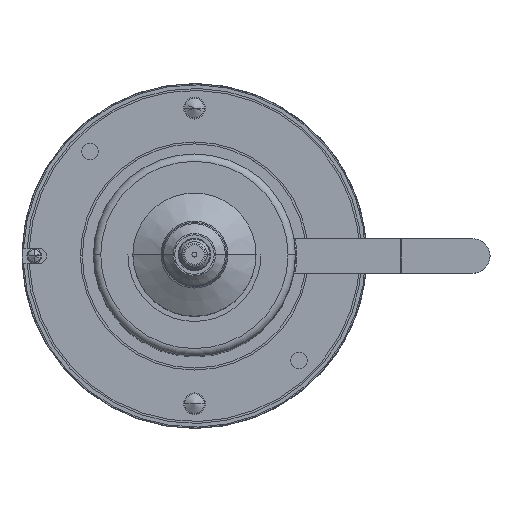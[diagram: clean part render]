
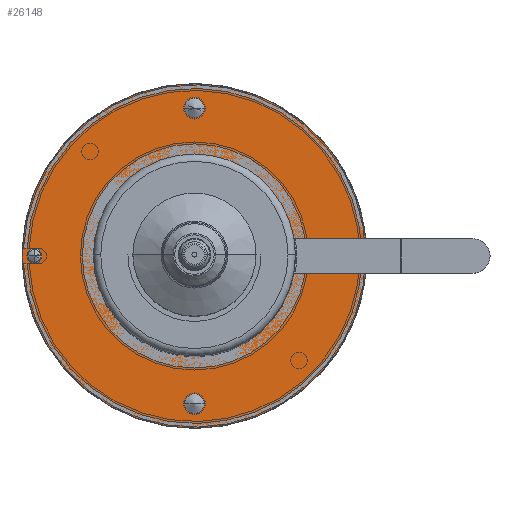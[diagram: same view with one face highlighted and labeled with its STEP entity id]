
A CAD part, top view. The second image highlights one B-rep face of the part: STEP entity #26148.
In plain terms, the highlighted planar face has unit normal (0, 0, 1).
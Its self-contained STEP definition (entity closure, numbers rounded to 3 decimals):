
#1758 = CARTESIAN_POINT ( 'NONE',  ( 40.398, -7., 32. ) ) ;
#1889 = CARTESIAN_POINT ( 'NONE',  ( -62., 0., 32. ) ) ;
#2034 = CARTESIAN_POINT ( 'NONE',  ( -41., 0., 32. ) ) ;
#2035 = CARTESIAN_POINT ( 'NONE',  ( -68., 0., 32. ) ) ;
#2039 = CARTESIAN_POINT ( 'NONE',  ( 0., -70., 32. ) ) ;
#2485 = CARTESIAN_POINT ( 'NONE',  ( 69.649, 7., 32. ) ) ;
#2546 = CARTESIAN_POINT ( 'NONE',  ( 0., 70., 32. ) ) ;
#2583 = CARTESIAN_POINT ( 'NONE',  ( 40.398, 7., 32. ) ) ;
#2746 = CARTESIAN_POINT ( 'NONE',  ( 4., -60., 32. ) ) ;
#2845 = CARTESIAN_POINT ( 'NONE',  ( -4., -60., 32. ) ) ;
#3661 = LINE ( 'NONE', #4650, #3663 ) ;
#3662 = CIRCLE ( 'NONE', #11648, 4. ) ;
#3663 = VECTOR ( 'NONE', #4651, 1000. ) ;
#3664 = CIRCLE ( 'NONE', #11649, 70. ) ;
#3665 = CIRCLE ( 'NONE', #11650, 4. ) ;
#3701 = CIRCLE ( 'NONE', #11668, 70. ) ;
#4647 = CARTESIAN_POINT ( 'NONE',  ( 0., 60., 32. ) ) ;
#4648 = DIRECTION ( 'NONE',  ( 0., 0., -1. ) ) ;
#4649 = DIRECTION ( 'NONE',  ( -1., 0., 0. ) ) ;
#4650 = CARTESIAN_POINT ( 'NONE',  ( 0., 7., 32. ) ) ;
#4651 = DIRECTION ( 'NONE',  ( -1., 0., 0. ) ) ;
#4652 = CARTESIAN_POINT ( 'NONE',  ( 0., 0., 32. ) ) ;
#4653 = DIRECTION ( 'NONE',  ( 0., 0., 1. ) ) ;
#4654 = DIRECTION ( 'NONE',  ( 0., 1., 0. ) ) ;
#4655 = CARTESIAN_POINT ( 'NONE',  ( 0., -60., 32. ) ) ;
#4656 = DIRECTION ( 'NONE',  ( 0., 0., 1. ) ) ;
#4657 = DIRECTION ( 'NONE',  ( -1., 0., 0. ) ) ;
#4773 = CARTESIAN_POINT ( 'NONE',  ( 0., 0., 32. ) ) ;
#4774 = DIRECTION ( 'NONE',  ( 0., 0., 1. ) ) ;
#4775 = DIRECTION ( 'NONE',  ( 0., 1., 0. ) ) ;
#8245 = CARTESIAN_POINT ( 'NONE',  ( 4., 60., 32. ) ) ;
#8702 = CARTESIAN_POINT ( 'NONE',  ( -4., 60., 32. ) ) ;
#8990 = CARTESIAN_POINT ( 'NONE',  ( 69.649, -7., 32. ) ) ;
#10166 = VERTEX_POINT ( 'NONE', #8245 ) ;
#10170 = VERTEX_POINT ( 'NONE', #8990 ) ;
#10190 = VERTEX_POINT ( 'NONE', #8702 ) ;
#10208 = VERTEX_POINT ( 'NONE', #2039 ) ;
#10209 = VERTEX_POINT ( 'NONE', #1889 ) ;
#10233 = VERTEX_POINT ( 'NONE', #2845 ) ;
#10266 = VERTEX_POINT ( 'NONE', #2485 ) ;
#10281 = VERTEX_POINT ( 'NONE', #2034 ) ;
#10291 = VERTEX_POINT ( 'NONE', #2546 ) ;
#10293 = VERTEX_POINT ( 'NONE', #2035 ) ;
#10335 = VERTEX_POINT ( 'NONE', #2583 ) ;
#10375 = VERTEX_POINT ( 'NONE', #2746 ) ;
#10674 = AXIS2_PLACEMENT_3D ( 'NONE', #30529, #30530, #30531 ) ;
#10717 = VERTEX_POINT ( 'NONE', #1758 ) ;
#10771 = AXIS2_PLACEMENT_3D ( 'NONE', #30425, #30426, #30427 ) ;
#10815 = AXIS2_PLACEMENT_3D ( 'NONE', #30345, #30346, #30347 ) ;
#10852 = AXIS2_PLACEMENT_3D ( 'NONE', #30292, #30293, #30294 ) ;
#11209 = AXIS2_PLACEMENT_3D ( 'NONE', #30216, #30217, #30218 ) ;
#11244 = AXIS2_PLACEMENT_3D ( 'NONE', #30116, #30117, #30118 ) ;
#11301 = AXIS2_PLACEMENT_3D ( 'NONE', #29950, #29951, #29952 ) ;
#11648 = AXIS2_PLACEMENT_3D ( 'NONE', #4647, #4648, #4649 ) ;
#11649 = AXIS2_PLACEMENT_3D ( 'NONE', #4652, #4653, #4654 ) ;
#11650 = AXIS2_PLACEMENT_3D ( 'NONE', #4655, #4656, #4657 ) ;
#11668 = AXIS2_PLACEMENT_3D ( 'NONE', #4773, #4774, #4775 ) ;
#12889 = EDGE_LOOP ( 'NONE', ( #20385, #20387 ) ) ;
#13048 = EDGE_LOOP ( 'NONE', ( #20370, #20371, #20372, #20373, #20375, #20377, #20379 ) ) ;
#13429 = EDGE_LOOP ( 'NONE', ( #20368, #20369 ) ) ;
#13765 = EDGE_LOOP ( 'NONE', ( #20381, #20383 ) ) ;
#17252 = PLANE ( 'NONE',  #28843 ) ;
#17253 = CARTESIAN_POINT ( 'NONE',  ( 0., 25., 32. ) ) ;
#17254 = DIRECTION ( 'NONE',  ( 0., 0., 1. ) ) ;
#17255 = DIRECTION ( 'NONE',  ( 0., 1., 0. ) ) ;
#19348 = EDGE_CURVE ( 'NONE', #10717, #10281, #24461, .T. ) ;
#19428 = EDGE_CURVE ( 'NONE', #10209, #10293, #24520, .T. ) ;
#19529 = EDGE_CURVE ( 'NONE', #10190, #10166, #24554, .T. ) ;
#19562 = EDGE_CURVE ( 'NONE', #10717, #10170, #24583, .T. ) ;
#19569 = EDGE_CURVE ( 'NONE', #10281, #10335, #24591, .T. ) ;
#19595 = EDGE_CURVE ( 'NONE', #10291, #10208, #24618, .T. ) ;
#19629 = EDGE_CURVE ( 'NONE', #10293, #10209, #24661, .T. ) ;
#19683 = EDGE_CURVE ( 'NONE', #10375, #10233, #24705, .T. ) ;
#20368 = ORIENTED_EDGE ( 'NONE', *, *, #19529, .T. ) ;
#20369 = ORIENTED_EDGE ( 'NONE', *, *, #32314, .T. ) ;
#20370 = ORIENTED_EDGE ( 'NONE', *, *, #32315, .F. ) ;
#20371 = ORIENTED_EDGE ( 'NONE', *, *, #32347, .T. ) ;
#20372 = ORIENTED_EDGE ( 'NONE', *, *, #19595, .T. ) ;
#20373 = ORIENTED_EDGE ( 'NONE', *, *, #32316, .T. ) ;
#20375 = ORIENTED_EDGE ( 'NONE', *, *, #19562, .F. ) ;
#20377 = ORIENTED_EDGE ( 'NONE', *, *, #19348, .T. ) ;
#20379 = ORIENTED_EDGE ( 'NONE', *, *, #19569, .T. ) ;
#20381 = ORIENTED_EDGE ( 'NONE', *, *, #19428, .F. ) ;
#20383 = ORIENTED_EDGE ( 'NONE', *, *, #19629, .F. ) ;
#20385 = ORIENTED_EDGE ( 'NONE', *, *, #32317, .F. ) ;
#20387 = ORIENTED_EDGE ( 'NONE', *, *, #19683, .F. ) ;
#24461 = CIRCLE ( 'NONE', #11301, 41. ) ;
#24520 = CIRCLE ( 'NONE', #11244, 3. ) ;
#24554 = CIRCLE ( 'NONE', #11209, 4. ) ;
#24583 = LINE ( 'NONE', #30269, #24584 ) ;
#24584 = VECTOR ( 'NONE', #30270, 1000. ) ;
#24591 = CIRCLE ( 'NONE', #10852, 41. ) ;
#24618 = CIRCLE ( 'NONE', #10815, 70. ) ;
#24661 = CIRCLE ( 'NONE', #10771, 3. ) ;
#24705 = CIRCLE ( 'NONE', #10674, 4. ) ;
#26148 = ADVANCED_FACE ( 'NONE', ( #31668, #31669, #31670, #31671 ), #17252, .T. ) ;
#28843 = AXIS2_PLACEMENT_3D ( 'NONE', #17253, #17254, #17255 ) ;
#29950 = CARTESIAN_POINT ( 'NONE',  ( 0., 0., 32. ) ) ;
#29951 = DIRECTION ( 'NONE',  ( 0., 0., -1. ) ) ;
#29952 = DIRECTION ( 'NONE',  ( -1., 0., 0. ) ) ;
#30116 = CARTESIAN_POINT ( 'NONE',  ( -65., 0., 32. ) ) ;
#30117 = DIRECTION ( 'NONE',  ( 0., 0., 1. ) ) ;
#30118 = DIRECTION ( 'NONE',  ( 1., 0., 0. ) ) ;
#30216 = CARTESIAN_POINT ( 'NONE',  ( 0., 60., 32. ) ) ;
#30217 = DIRECTION ( 'NONE',  ( 0., 0., -1. ) ) ;
#30218 = DIRECTION ( 'NONE',  ( -1., 0., 0. ) ) ;
#30269 = CARTESIAN_POINT ( 'NONE',  ( 0., -7., 32. ) ) ;
#30270 = DIRECTION ( 'NONE',  ( 1., 0., 0. ) ) ;
#30292 = CARTESIAN_POINT ( 'NONE',  ( 0., 0., 32. ) ) ;
#30293 = DIRECTION ( 'NONE',  ( 0., 0., -1. ) ) ;
#30294 = DIRECTION ( 'NONE',  ( -1., 0., 0. ) ) ;
#30345 = CARTESIAN_POINT ( 'NONE',  ( 0., 0., 32. ) ) ;
#30346 = DIRECTION ( 'NONE',  ( 0., 0., 1. ) ) ;
#30347 = DIRECTION ( 'NONE',  ( 0., 1., 0. ) ) ;
#30425 = CARTESIAN_POINT ( 'NONE',  ( -65., 0., 32. ) ) ;
#30426 = DIRECTION ( 'NONE',  ( 0., 0., 1. ) ) ;
#30427 = DIRECTION ( 'NONE',  ( 1., 0., 0. ) ) ;
#30529 = CARTESIAN_POINT ( 'NONE',  ( 0., -60., 32. ) ) ;
#30530 = DIRECTION ( 'NONE',  ( 0., 0., 1. ) ) ;
#30531 = DIRECTION ( 'NONE',  ( -1., 0., 0. ) ) ;
#31668 = FACE_BOUND ( 'NONE', #13429, .T. ) ;
#31669 = FACE_OUTER_BOUND ( 'NONE', #13048, .T. ) ;
#31670 = FACE_BOUND ( 'NONE', #13765, .T. ) ;
#31671 = FACE_BOUND ( 'NONE', #12889, .T. ) ;
#32314 = EDGE_CURVE ( 'NONE', #10166, #10190, #3662, .T. ) ;
#32315 = EDGE_CURVE ( 'NONE', #10266, #10335, #3661, .T. ) ;
#32316 = EDGE_CURVE ( 'NONE', #10208, #10170, #3664, .T. ) ;
#32317 = EDGE_CURVE ( 'NONE', #10233, #10375, #3665, .T. ) ;
#32347 = EDGE_CURVE ( 'NONE', #10266, #10291, #3701, .T. ) ;
